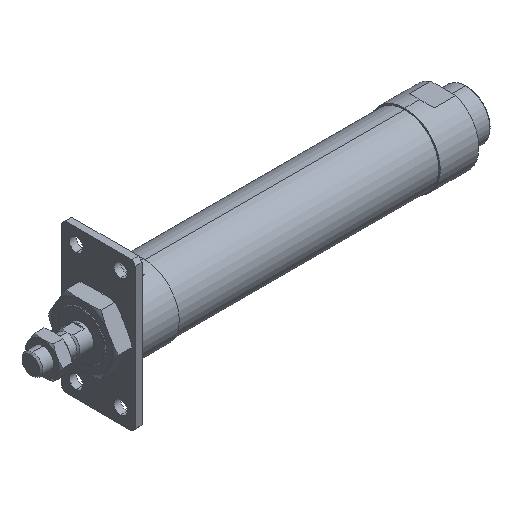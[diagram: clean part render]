
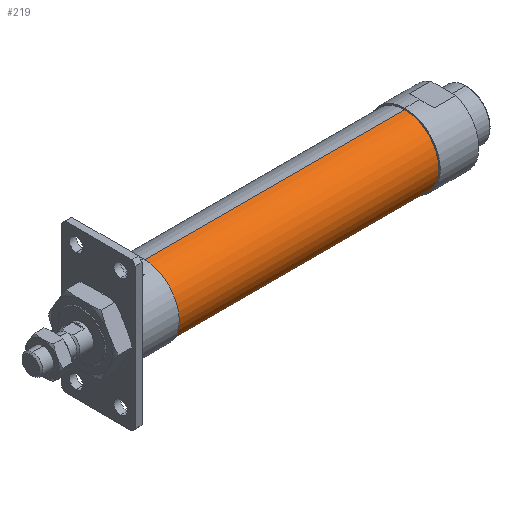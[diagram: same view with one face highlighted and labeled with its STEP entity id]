
A CAD part, isometric view. The second image highlights one B-rep face of the part: STEP entity #219.
In plain terms, the highlighted cylindrical face has radius 23 mm (diameter 46 mm), a partial arc.
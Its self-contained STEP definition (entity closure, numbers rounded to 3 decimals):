
#140 = EDGE_LOOP ( 'NONE', ( #2758, #564, #1095, #367 ) ) ;
#149 = DIRECTION ( 'NONE',  ( -1., 0., 0. ) ) ;
#192 = EDGE_CURVE ( 'NONE', #3366, #1934, #4100, .T. ) ;
#219 = ADVANCED_FACE ( 'NONE', ( #396 ), #2646, .T. ) ;
#367 = ORIENTED_EDGE ( 'NONE', *, *, #192, .F. ) ;
#396 = FACE_OUTER_BOUND ( 'NONE', #140, .T. ) ;
#564 = ORIENTED_EDGE ( 'NONE', *, *, #3355, .T. ) ;
#709 = CARTESIAN_POINT ( 'NONE',  ( -1.784, 0., -23. ) ) ;
#1080 = CARTESIAN_POINT ( 'NONE',  ( 252., 0., 0. ) ) ;
#1095 = ORIENTED_EDGE ( 'NONE', *, *, #1769, .T. ) ;
#1246 = VERTEX_POINT ( 'NONE', #3082 ) ;
#1260 = CARTESIAN_POINT ( 'NONE',  ( -1.784, 0., 23. ) ) ;
#1268 = CARTESIAN_POINT ( 'NONE',  ( 76., 0., 23. ) ) ;
#1387 = LINE ( 'NONE', #709, #3170 ) ;
#1481 = DIRECTION ( 'NONE',  ( 0., 0., 1. ) ) ;
#1629 = DIRECTION ( 'NONE',  ( -1., 0., 0. ) ) ;
#1737 = VECTOR ( 'NONE', #149, 1000. ) ;
#1769 = EDGE_CURVE ( 'NONE', #1246, #1934, #2001, .T. ) ;
#1918 = EDGE_CURVE ( 'NONE', #2142, #3366, #1387, .T. ) ;
#1934 = VERTEX_POINT ( 'NONE', #1268 ) ;
#1961 = AXIS2_PLACEMENT_3D ( 'NONE', #3354, #1629, #1481 ) ;
#1962 = DIRECTION ( 'NONE',  ( 0., 0., 1. ) ) ;
#2001 = LINE ( 'NONE', #1260, #1737 ) ;
#2072 = DIRECTION ( 'NONE',  ( -1., 0., 0. ) ) ;
#2142 = VERTEX_POINT ( 'NONE', #2455 ) ;
#2360 = AXIS2_PLACEMENT_3D ( 'NONE', #1080, #2649, #2391 ) ;
#2384 = DIRECTION ( 'NONE',  ( -1., 0., 0. ) ) ;
#2391 = DIRECTION ( 'NONE',  ( 0., 0., 1. ) ) ;
#2455 = CARTESIAN_POINT ( 'NONE',  ( 252., 0., -23. ) ) ;
#2646 = CYLINDRICAL_SURFACE ( 'NONE', #1961, 23. ) ;
#2649 = DIRECTION ( 'NONE',  ( -1., 0., 0. ) ) ;
#2758 = ORIENTED_EDGE ( 'NONE', *, *, #1918, .F. ) ;
#3001 = CIRCLE ( 'NONE', #2360, 23. ) ;
#3082 = CARTESIAN_POINT ( 'NONE',  ( 252., 0., 23. ) ) ;
#3170 = VECTOR ( 'NONE', #2072, 1000. ) ;
#3307 = AXIS2_PLACEMENT_3D ( 'NONE', #3815, #2384, #1962 ) ;
#3354 = CARTESIAN_POINT ( 'NONE',  ( -1.784, 0., 0. ) ) ;
#3355 = EDGE_CURVE ( 'NONE', #2142, #1246, #3001, .T. ) ;
#3366 = VERTEX_POINT ( 'NONE', #3559 ) ;
#3559 = CARTESIAN_POINT ( 'NONE',  ( 76., 0., -23. ) ) ;
#3815 = CARTESIAN_POINT ( 'NONE',  ( 76., 0., 0. ) ) ;
#4100 = CIRCLE ( 'NONE', #3307, 23. ) ;
